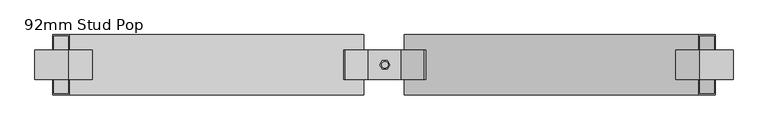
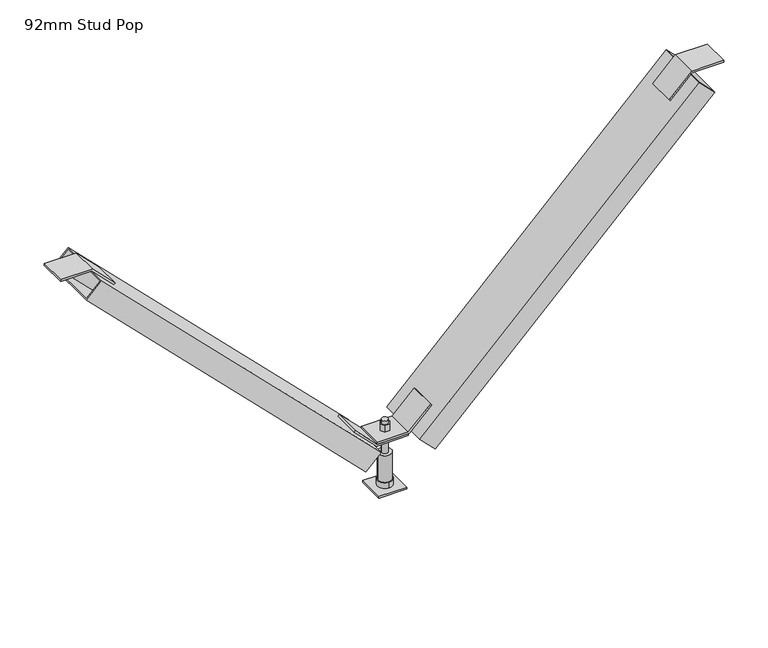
"""IFC4 building model written with IfcOpenShell, lengths in millimetres: beam geometry, Vertibrace Boxstud Brace : 92mm Stud Pop."""

from ifc_helpers import new_model, si_unit, frame, origin, origin_with_axes, place, context, project, spatial, polyline, circle_curve, outline, extrude, faceted_brep, source, transform, mapped, element, save
from ifc_brep_helpers import plane_surface, cylinder_surface, advanced_brep


def beam_92mm_stud_pop_bfe8406a(model_context):
    return source(origin(), model_context, "Body", "SolidModel", [
        extrude(outline(polyline([(547.0013294, 480.8434194), (547.0013294, 530.8278886), (550.0, 530.8278886), (550.0, 479.6013294), (513.7773526, 443.378682), (511.6569723, 445.4990623), (547.0013294, 480.8434194)])), frame((0.0, -22.5, 0.0), z_axis=(0.0, 1.0, 0.0), x_axis=(0.0, 0.0, 1.0)), (0.0, 0.0, 1.0), 45.0),
        extrude(outline(polyline([(547.0013294, -483.535654), (511.6569723, -448.1912969), (513.7773526, -446.0709166), (550.0, -482.293564), (550.0, -533.5201232), (547.0013294, -533.5201232), (547.0013294, -483.535654)])), frame((0.0, -22.5, 0.0), z_axis=(0.0, 1.0, 0.0), x_axis=(0.0, 0.0, 1.0)), (0.0, 0.0, 1.0), 45.0),
        extrude(outline(polyline([(95.6986706, 24.9922346), (95.6986706, -24.9922346), (92.7, -24.9922346), (92.7, 26.2343246), (128.9226474, 62.456972), (131.0430277, 60.3365917), (95.6986706, 24.9922346)])), frame((0.0, -22.5, 0.0), z_axis=(0.0, 1.0, 0.0), x_axis=(0.0, 0.0, 1.0)), (0.0, 0.0, 1.0), 45.0),
        extrude(outline(polyline([(92.6986706, -24.9922346), (128.0430277, -60.3365917), (125.9226474, -62.456972), (89.7, -26.2343246), (89.7, 24.9922346), (92.6986706, 24.9922346), (92.6986706, -24.9922346)])), frame((0.0, -22.5, 0.0), z_axis=(0.0, 1.0, 0.0), x_axis=(0.0, 0.0, 1.0)), (0.0, 0.0, 1.0), 45.0),
        extrude(outline(polyline([(22.5, 22.5), (22.5, -22.5), (-22.5, -22.5), (-22.5, 22.5), (22.5, 22.5)])), origin_with_axes(), (0.0, 0.0, 1.0), 3.0),
        advanced_brep(
        [(-5.0, 0.0, 0.0), (5.0, 0.0, 0.0), (-5.0, 0.0, 113.0), (5.0, 0.0, 113.0), (5.0, 0.0, 3.0), (-5.0, 0.0, 3.0), (-5.0, 0.0, 107.4), (5.0, 0.0, 107.4), (-5.0, 0.0, 58.0), (5.0, 0.0, 58.0), (5.0, 0.0, 83.0), (-5.0, 0.0, 83.0), (5.0, 0.0, 95.7), (-5.0, 0.0, 95.7), (-5.0, 0.0, 89.7), (5.0, 0.0, 89.7), (-10.5, 0.0, 58.0), (10.5, 0.0, 58.0), (-10.5, 0.0, 13.0), (10.5, 0.0, 13.0), (0.0, -12.0, 13.0), (0.0, 12.0, 13.0), (3.75, 6.4951905, 107.4), (-3.75, 6.4951905, 107.4), (-7.5, 0.0, 107.4), (-3.75, -6.4951905, 107.4), (3.75, -6.4951905, 107.4), (7.5, 0.0, 107.4), (3.75, 6.4951905, 95.7), (7.5, 0.0, 95.7), (3.75, -6.4951905, 95.7), (-3.75, -6.4951905, 95.7), (-7.5, 0.0, 95.7), (-3.75, 6.4951905, 95.7), (-10.9696551, 0.0, 89.7), (-5.4848276, -9.5, 89.7), (5.4848276, -9.5, 89.7), (10.9696551, 0.0, 89.7), (5.4848276, 9.5, 89.7), (-5.4848276, 9.5, 89.7), (-10.9696551, 0.0, 83.0), (-5.4848276, 9.5, 83.0), (5.4848276, 9.5, 83.0), (10.9696551, 0.0, 83.0), (5.4848276, -9.5, 83.0), (-5.4848276, -9.5, 83.0), (0.0, -12.0, 3.0), (0.0, 12.0, 3.0)],
        [
            (0, 1, circle_curve(frame((0.0, 0.0, 0.0), z_axis=(0.0, 0.0, -1.0), x_axis=(1.0, 0.0, 0.0)), 5.0)),
            (1, 0, circle_curve(frame((0.0, 0.0, 0.0), z_axis=(0.0, 0.0, -1.0), x_axis=(1.0, 0.0, 0.0)), 5.0)),
            (2, 3, circle_curve(frame((0.0, 0.0, 113.0), z_axis=(0.0, 0.0, 1.0), x_axis=(1.0, 0.0, 0.0)), 5.0)),
            (3, 2, circle_curve(frame((0.0, 0.0, 113.0), z_axis=(0.0, 0.0, 1.0), x_axis=(1.0, 0.0, 0.0)), 5.0)),
            (1, 4),
            (4, 5, circle_curve(frame((0.0, 0.0, 3.0), z_axis=(0.0, 0.0, -1.0), x_axis=(1.0, 0.0, 0.0)), 5.0)),
            (5, 0),
            (2, 6),
            (6, 7, circle_curve(frame((0.0, 0.0, 107.4), z_axis=(0.0, 0.0, 1.0), x_axis=(1.0, 0.0, 0.0)), 5.0)),
            (7, 3),
            (8, 9, circle_curve(frame((0.0, 0.0, 58.0), z_axis=(0.0, 0.0, 1.0), x_axis=(1.0, 0.0, 0.0)), 5.0)),
            (9, 10),
            (10, 11, circle_curve(frame((0.0, 0.0, 83.0), z_axis=(0.0, 0.0, -1.0), x_axis=(1.0, 0.0, 0.0)), 5.0)),
            (11, 8),
            (12, 13, circle_curve(frame((0.0, 0.0, 95.7), z_axis=(0.0, 0.0, -1.0), x_axis=(1.0, 0.0, 0.0)), 5.0)),
            (13, 14),
            (14, 15, circle_curve(frame((0.0, 0.0, 89.7), z_axis=(0.0, 0.0, 1.0), x_axis=(1.0, 0.0, 0.0)), 5.0)),
            (15, 12),
            (5, 4, circle_curve(frame((0.0, 0.0, 3.0), z_axis=(0.0, 0.0, -1.0), x_axis=(1.0, 0.0, 0.0)), 5.0)),
            (7, 6, circle_curve(frame((0.0, 0.0, 107.4), z_axis=(0.0, 0.0, 1.0), x_axis=(1.0, 0.0, 0.0)), 5.0)),
            (9, 8, circle_curve(frame((0.0, 0.0, 58.0), z_axis=(0.0, 0.0, 1.0), x_axis=(1.0, 0.0, 0.0)), 5.0)),
            (11, 10, circle_curve(frame((0.0, 0.0, 83.0), z_axis=(0.0, 0.0, -1.0), x_axis=(1.0, 0.0, 0.0)), 5.0)),
            (13, 12, circle_curve(frame((0.0, 0.0, 95.7), z_axis=(0.0, 0.0, -1.0), x_axis=(1.0, 0.0, 0.0)), 5.0)),
            (15, 14, circle_curve(frame((0.0, 0.0, 89.7), z_axis=(0.0, 0.0, 1.0), x_axis=(1.0, 0.0, 0.0)), 5.0)),
            (16, 17, circle_curve(frame((0.0, 0.0, 58.0), z_axis=(0.0, 0.0, 1.0), x_axis=(1.0, 0.0, 0.0)), 10.5)),
            (17, 16, circle_curve(frame((0.0, 0.0, 58.0), z_axis=(0.0, 0.0, 1.0), x_axis=(1.0, 0.0, 0.0)), 10.5)),
            (16, 18),
            (18, 19, circle_curve(frame((0.0, 0.0, 13.0), z_axis=(0.0, 0.0, 1.0), x_axis=(1.0, 0.0, 0.0)), 10.5)),
            (19, 17),
            (19, 18, circle_curve(frame((0.0, 0.0, 13.0), z_axis=(0.0, 0.0, 1.0), x_axis=(1.0, 0.0, 0.0)), 10.5)),
            (20, 21, circle_curve(frame((0.0, 0.0, 13.0), z_axis=(0.0, 0.0, 1.0), x_axis=(0.0, 1.0, 0.0)), 12.0)),
            (21, 20, circle_curve(frame((0.0, 0.0, 13.0), z_axis=(0.0, 0.0, 1.0), x_axis=(0.0, 1.0, 0.0)), 12.0)),
            (22, 23),
            (23, 24),
            (24, 25),
            (25, 26),
            (26, 27),
            (27, 22),
            (28, 29),
            (29, 30),
            (30, 31),
            (31, 32),
            (32, 33),
            (33, 28),
            (22, 28),
            (33, 23),
            (32, 24),
            (31, 25),
            (30, 26),
            (29, 27),
            (34, 35),
            (35, 36),
            (36, 37),
            (37, 38),
            (38, 39),
            (39, 34),
            (40, 41),
            (41, 42),
            (42, 43),
            (43, 44),
            (44, 45),
            (45, 40),
            (34, 40),
            (45, 35),
            (44, 36),
            (43, 37),
            (42, 38),
            (41, 39),
            (46, 47, circle_curve(frame((0.0, 0.0, 3.0), z_axis=(0.0, 0.0, -1.0), x_axis=(0.0, 1.0, 0.0)), 12.0)),
            (47, 46, circle_curve(frame((0.0, 0.0, 3.0), z_axis=(0.0, 0.0, -1.0), x_axis=(0.0, 1.0, 0.0)), 12.0)),
            (47, 21),
            (20, 46),
        ],
        [
            plane_surface(frame((5.0, 0.0, 0.0), z_axis=(0.0, 0.0, -1.0), x_axis=(0.0, -1.0, 0.0))),
            plane_surface(frame((5.0, 0.0, 113.0), z_axis=(0.0, 0.0, 1.0), x_axis=(0.0, 1.0, 0.0))),
            cylinder_surface(origin_with_axes(), 5.0),
            plane_surface(frame((10.5, 0.0, 58.0), z_axis=(0.0, 0.0, 1.0), x_axis=(0.0, 1.0, 0.0))),
            cylinder_surface(frame((0.0, 0.0, 13.0), z_axis=(0.0, 0.0, 1.0), x_axis=(1.0, 0.0, 0.0)), 10.5),
            plane_surface(frame((0.0, 12.0, 13.0), z_axis=(0.0, 0.0, 1.0), x_axis=(-1.0, 0.0, 0.0))),
            plane_surface(frame((3.75, 6.4951905, 107.4), z_axis=(0.0, 0.0, 1.0), x_axis=(-1.0, 0.0, 0.0))),
            plane_surface(frame((3.75, 6.4951905, 95.7), z_axis=(0.0, 0.0, -1.0), x_axis=(1.0, 0.0, 0.0))),
            plane_surface(frame((3.75, 6.4951905, 107.4), z_axis=(0.0, 1.0, 0.0), x_axis=(0.0, 0.0, -1.0))),
            plane_surface(frame((-3.75, 6.4951905, 107.4), z_axis=(-0.866025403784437, 0.5000000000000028, 0.0), x_axis=(0.0, 0.0, -1.0))),
            plane_surface(frame((-7.5, 0.0, 107.4), z_axis=(-0.8660254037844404, -0.4999999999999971, 0.0), x_axis=(0.0, 0.0, -1.0))),
            plane_surface(frame((-3.75, -6.4951905, 107.4), z_axis=(0.0, -1.0, 0.0), x_axis=(0.0, 0.0, -1.0))),
            plane_surface(frame((3.75, -6.4951905, 107.4), z_axis=(0.8660254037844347, -0.500000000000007, 0.0), x_axis=(0.0, 0.0, -1.0))),
            plane_surface(frame((7.5, 0.0, 107.4), z_axis=(0.8660254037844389, 0.49999999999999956, 0.0), x_axis=(0.0, 0.0, -1.0))),
            plane_surface(frame((-10.9696551, 0.0, 89.7), z_axis=(0.0, 0.0, 1.0000000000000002), x_axis=(0.4999999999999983, -0.8660254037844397, 0.0))),
            plane_surface(frame((-10.9696551, 0.0, 83.0), z_axis=(0.0, 0.0, -1.0000000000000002), x_axis=(-0.4999999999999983, 0.8660254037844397, 0.0))),
            plane_surface(frame((-10.9696551, 0.0, 89.7), z_axis=(-0.8660254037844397, -0.4999999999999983, 0.0), x_axis=(0.0, 0.0, -1.0))),
            plane_surface(frame((-5.4848276, -9.5, 89.7), z_axis=(0.0, -1.0, 0.0), x_axis=(0.0, 0.0, -1.0))),
            plane_surface(frame((5.4848276, -9.5, 89.7), z_axis=(0.8660254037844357, -0.5000000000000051, 0.0), x_axis=(0.0, 0.0, -1.0))),
            plane_surface(frame((10.9696551, 0.0, 89.7), z_axis=(0.8660254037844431, 0.4999999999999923, 0.0), x_axis=(0.0, 0.0, -1.0))),
            plane_surface(frame((5.4848276, 9.5, 89.7), z_axis=(0.0, 1.0, 0.0), x_axis=(0.0, 0.0, -1.0))),
            plane_surface(frame((-5.4848276, 9.5, 89.7), z_axis=(-0.8660254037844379, 0.5000000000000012, 0.0), x_axis=(0.0, 0.0, -1.0))),
            plane_surface(frame((0.0, 12.0, 3.0), z_axis=(0.0, 0.0, -1.0), x_axis=(1.0, 0.0, 0.0))),
            cylinder_surface(frame((0.0, 0.0, 3.0), z_axis=(0.0, 0.0, 1.0), x_axis=(0.0, 1.0, 0.0)), 12.0),
        ],
        [
            (0, [[1, 2]]),
            (1, [[3, 4]]),
            (2, [[-2, 5, 6, 7]]),
            (2, [[-3, 8, 9, 10]]),
            (2, [[11, 12, 13, 14]]),
            (2, [[15, 16, 17, 18]]),
            (2, [[-1, -7, 19, -5]]),
            (2, [[-4, -10, 20, -8]]),
            (2, [[21, -14, 22, -12]]),
            (2, [[23, -18, 24, -16]]),
            (3, [[25, 26], [-11, -21]]),
            (4, [[-25, 27, 28, 29]]),
            (4, [[-26, -29, 30, -27]]),
            (5, [[31, 32], [-28, -30]]),
            (6, [[33, 34, 35, 36, 37, 38], [-9, -20]]),
            (7, [[39, 40, 41, 42, 43, 44], [-15, -23]]),
            (8, [[-33, 45, -44, 46]]),
            (9, [[-34, -46, -43, 47]]),
            (10, [[-35, -47, -42, 48]]),
            (11, [[-36, -48, -41, 49]]),
            (12, [[-37, -49, -40, 50]]),
            (13, [[-38, -50, -39, -45]]),
            (14, [[51, 52, 53, 54, 55, 56], [-17, -24]]),
            (15, [[57, 58, 59, 60, 61, 62], [-13, -22]]),
            (16, [[-51, 63, -62, 64]]),
            (17, [[-52, -64, -61, 65]]),
            (18, [[-53, -65, -60, 66]]),
            (19, [[-54, -66, -59, 67]]),
            (20, [[-55, -67, -58, 68]]),
            (21, [[-56, -68, -57, -63]]),
            (22, [[69, 70], [-6, -19]]),
            (23, [[-70, 71, -31, 72]]),
            (23, [[-69, -72, -32, -71]]),
        ],
    ),
        faceted_brep([(39.9343246, -45.0, 85.0), (68.0317993, -45.0, 85.0), (53.983062, -45.0, 70.9512627), (39.9343246, -44.0, 85.0), (65.2033722, -44.0, 85.0), (65.2033722, 44.0, 85.0), (39.9343246, 44.0, 85.0), (39.9343246, 46.0, 85.0), (68.0317993, 46.0, 85.0), (53.983062, -46.0, 70.9512627), (29.2343246, -46.0, 95.7), (29.2343246, 46.0, 95.7), (30.6485382, 44.0, 94.2857864), (30.6485382, -44.0, 94.2857864), (478.5343246, 46.0, 545.0), (478.5343246, -46.0, 545.0), (503.283062, -46.0, 520.2512627), (503.283062, 46.0, 520.2512627), (501.8688484, -44.0, 521.6654762), (479.9485382, -44.0, 543.5857864), (479.9485382, 44.0, 543.5857864), (501.8688484, 44.0, 521.6654762)], [[[0, 1, 2]], [[1, 0, 3, 4, 5, 6, 7, 8]], [[9, 10, 11, 7, 6, 12, 13, 3, 0, 2]], [[14, 15, 16, 17], [18, 19, 20, 21]], [[14, 17, 8, 7, 11]], [[17, 16, 9, 2, 1, 8]], [[18, 21, 5, 4]], [[21, 20, 12, 6, 5]], [[13, 12, 20, 19]], [[19, 18, 4, 3, 13]], [[10, 9, 16, 15]], [[11, 10, 15, 14]]]),
        faceted_brep([(-32.5343246, -46.0, 96.0), (-57.283062, -46.0, 71.2512627), (-57.283062, -45.0, 71.2512627), (-43.5343246, -45.0, 85.0), (-43.5343246, -44.0, 85.0), (-33.9485382, -44.0, 94.5857864), (-33.9485382, 44.0, 94.5857864), (-43.5343246, 44.0, 85.0), (-43.5343246, 46.0, 85.0), (-32.5343246, 46.0, 96.0), (-481.4883773, -46.0, 544.9540527), (-481.4883773, 46.0, 544.9540527), (-506.2371147, 46.0, 520.2053154), (-506.2371147, -46.0, 520.2053154), (-504.8229011, 44.0, 521.6195289), (-482.9025909, 44.0, 543.5398392), (-482.9025909, -44.0, 543.5398392), (-504.8229011, -44.0, 521.6195289), (-71.0317993, 46.0, 85.0), (-71.0317993, -45.0, 85.0), (-68.2033722, 44.0, 85.0), (-68.2033722, -44.0, 85.0)], [[[0, 1, 2, 3, 4, 5, 6, 7, 8, 9]], [[10, 11, 12, 13], [14, 15, 16, 17]], [[1, 0, 10, 13]], [[13, 12, 18, 19, 2, 1]], [[12, 11, 9, 8, 18]], [[0, 9, 11, 10]], [[19, 3, 2]], [[3, 19, 18, 8, 7, 20, 21, 4]], [[14, 17, 21, 20]], [[17, 16, 5, 4, 21]], [[6, 5, 16, 15]], [[15, 14, 20, 7, 6]]]),
    ])


if __name__ == "__main__":
    model = new_model("IFC4")
    model_context = context("Model", 3, world=origin())
    ifc_project = project(units=[si_unit("LENGTHUNIT", "METRE", prefix="MILLI")], contexts=[model_context])
    site = spatial("IfcSite", under=ifc_project)
    building = spatial("IfcBuilding", under=site)
    placement = place(None, origin())
    beam_92mm_stud_pop_shape = beam_92mm_stud_pop_bfe8406a(model_context)
    element("IfcBeam", 1, ObjectType="Vertibrace Boxstud Brace : 92mm Stud Pop", at=placement, inside=building, context=model_context, shape_type="MappedRepresentation", body=[
        mapped(beam_92mm_stud_pop_shape, transform((0.0, 0.0, 0.0), x_axis=(1.0, 0.0, 0.0), y_axis=(0.0, 1.0, 0.0), z_axis=(0.0, 0.0, 1.0))),
    ])
    save(model, "model.ifc")
